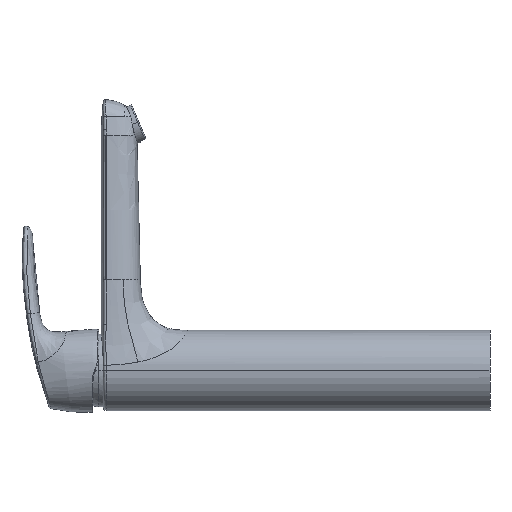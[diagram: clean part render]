
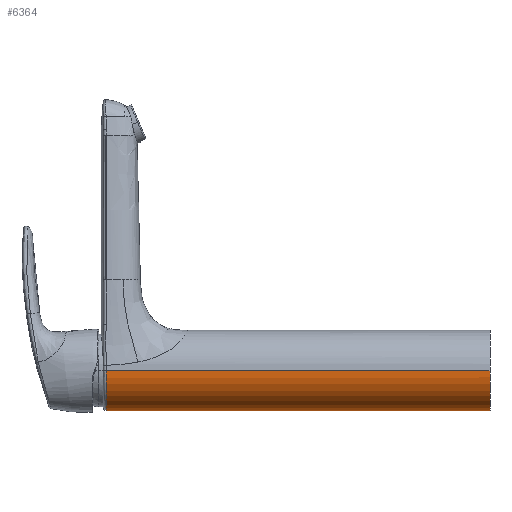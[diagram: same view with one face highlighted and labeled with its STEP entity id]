
A CAD part, left-side view. The second image highlights one B-rep face of the part: STEP entity #6364.
In plain terms, the highlighted cylindrical face has radius 24.1 mm (diameter 48.2 mm), a partial arc.
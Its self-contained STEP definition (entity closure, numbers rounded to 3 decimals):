
#375 = EDGE_CURVE ( 'NONE', #16151, #8166, #677, .T. ) ;
#533 = DIRECTION ( 'NONE',  ( 0., 1., 0. ) ) ;
#644 = CIRCLE ( 'NONE', #6970, 24.1 ) ;
#677 = B_SPLINE_CURVE_WITH_KNOTS ( 'NONE', 3,
 ( #14318, #9027, #1086, #15631 ),
 .UNSPECIFIED., .F., .F.,
 ( 4, 4 ),
 ( 0., 0.009 ),
 .UNSPECIFIED. ) ;
#946 = ORIENTED_EDGE ( 'NONE', *, *, #375, .T. ) ;
#957 = VERTEX_POINT ( 'NONE', #8456 ) ;
#1086 = CARTESIAN_POINT ( 'NONE',  ( 24.1, 230.674, -0.012 ) ) ;
#1258 = CYLINDRICAL_SURFACE ( 'NONE', #10413, 24.1 ) ;
#1957 = CARTESIAN_POINT ( 'NONE',  ( 0., 0., 0. ) ) ;
#2049 = CARTESIAN_POINT ( 'NONE',  ( 0., 116.492, 0. ) ) ;
#2354 = EDGE_LOOP ( 'NONE', ( #9790, #12520, #10309, #7638, #946, #4219 ) ) ;
#2862 = DIRECTION ( 'NONE',  ( 1., 0., 0. ) ) ;
#3309 = DIRECTION ( 'NONE',  ( 1., 0., 0. ) ) ;
#3394 = EDGE_CURVE ( 'NONE', #11983, #957, #644, .T. ) ;
#3505 = CIRCLE ( 'NONE', #15648, 24.1 ) ;
#4041 = VERTEX_POINT ( 'NONE', #9727 ) ;
#4219 = ORIENTED_EDGE ( 'NONE', *, *, #15852, .F. ) ;
#4273 = CARTESIAN_POINT ( 'NONE',  ( -24.1, 116.492, 0. ) ) ;
#4341 = CARTESIAN_POINT ( 'NONE',  ( -24.1, 230.674, -0.031 ) ) ;
#4766 = VECTOR ( 'NONE', #533, 1000. ) ;
#5383 = DIRECTION ( 'NONE',  ( 0., 1., 0. ) ) ;
#5438 = EDGE_CURVE ( 'NONE', #957, #4041, #13698, .T. ) ;
#6364 = ADVANCED_FACE ( 'NONE', ( #7066 ), #1258, .T. ) ;
#6782 = CARTESIAN_POINT ( 'NONE',  ( 24.1, 230.674, 0. ) ) ;
#6970 = AXIS2_PLACEMENT_3D ( 'NONE', #1957, #9775, #9946 ) ;
#7066 = FACE_OUTER_BOUND ( 'NONE', #2354, .T. ) ;
#7638 = ORIENTED_EDGE ( 'NONE', *, *, #15805, .T. ) ;
#7749 = VERTEX_POINT ( 'NONE', #12888 ) ;
#8166 = VERTEX_POINT ( 'NONE', #6782 ) ;
#8456 = CARTESIAN_POINT ( 'NONE',  ( -24.1, 0., 0. ) ) ;
#9027 = CARTESIAN_POINT ( 'NONE',  ( 24.1, 230.674, -0.023 ) ) ;
#9584 = CARTESIAN_POINT ( 'NONE',  ( 24.1, 116.492, 0. ) ) ;
#9727 = CARTESIAN_POINT ( 'NONE',  ( -24.1, 230.674, 0. ) ) ;
#9775 = DIRECTION ( 'NONE',  ( 0., 1., 0. ) ) ;
#9790 = ORIENTED_EDGE ( 'NONE', *, *, #3394, .T. ) ;
#9946 = DIRECTION ( 'NONE',  ( 1., 0., 0. ) ) ;
#10040 = DIRECTION ( 'NONE',  ( 0., 1., 0. ) ) ;
#10309 = ORIENTED_EDGE ( 'NONE', *, *, #12027, .T. ) ;
#10413 = AXIS2_PLACEMENT_3D ( 'NONE', #2049, #10040, #3309 ) ;
#11983 = VERTEX_POINT ( 'NONE', #15954 ) ;
#12017 = DIRECTION ( 'NONE',  ( 0., -1., 0. ) ) ;
#12024 = LINE ( 'NONE', #9584, #4766 ) ;
#12027 = EDGE_CURVE ( 'NONE', #4041, #7749, #16811, .T. ) ;
#12076 = CARTESIAN_POINT ( 'NONE',  ( 0., 230.674, 0. ) ) ;
#12153 = CARTESIAN_POINT ( 'NONE',  ( 24.1, 230.674, -0.031 ) ) ;
#12350 = CARTESIAN_POINT ( 'NONE',  ( -24.1, 230.674, -0.01 ) ) ;
#12520 = ORIENTED_EDGE ( 'NONE', *, *, #5438, .T. ) ;
#12888 = CARTESIAN_POINT ( 'NONE',  ( -24.1, 230.674, -0.031 ) ) ;
#13698 = LINE ( 'NONE', #4273, #15781 ) ;
#13740 = CARTESIAN_POINT ( 'NONE',  ( -24.1, 230.674, -0.02 ) ) ;
#14318 = CARTESIAN_POINT ( 'NONE',  ( 24.1, 230.674, -0.031 ) ) ;
#15631 = CARTESIAN_POINT ( 'NONE',  ( 24.1, 230.674, 0. ) ) ;
#15648 = AXIS2_PLACEMENT_3D ( 'NONE', #12076, #12017, #2862 ) ;
#15729 = CARTESIAN_POINT ( 'NONE',  ( -24.1, 230.674, 0. ) ) ;
#15781 = VECTOR ( 'NONE', #5383, 1000. ) ;
#15805 = EDGE_CURVE ( 'NONE', #7749, #16151, #3505, .T. ) ;
#15852 = EDGE_CURVE ( 'NONE', #11983, #8166, #12024, .T. ) ;
#15954 = CARTESIAN_POINT ( 'NONE',  ( 24.1, 0., 0. ) ) ;
#16151 = VERTEX_POINT ( 'NONE', #12153 ) ;
#16811 = B_SPLINE_CURVE_WITH_KNOTS ( 'NONE', 3,
 ( #15729, #12350, #13740, #4341 ),
 .UNSPECIFIED., .F., .F.,
 ( 4, 4 ),
 ( 0.993, 1. ),
 .UNSPECIFIED. ) ;
